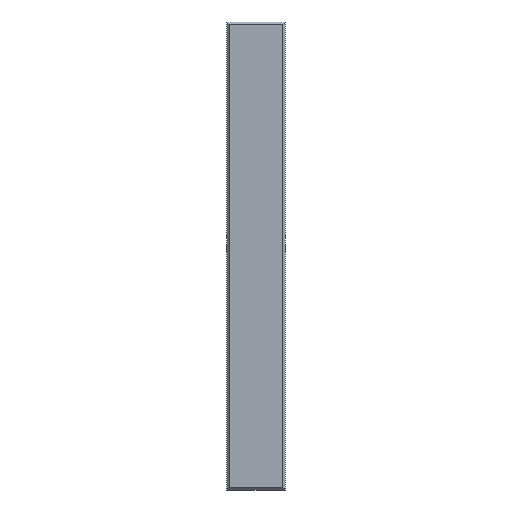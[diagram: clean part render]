
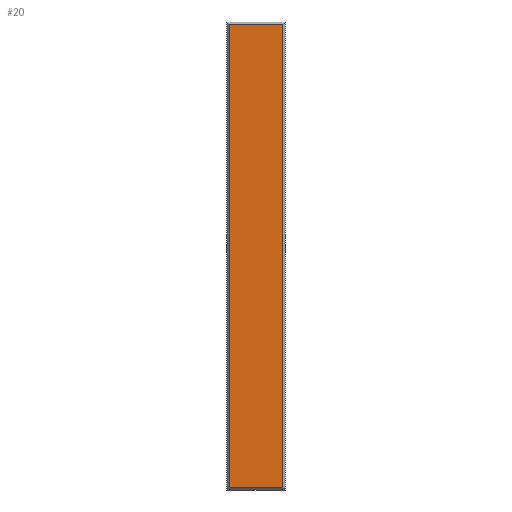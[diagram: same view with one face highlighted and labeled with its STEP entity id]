
A CAD part, front view. The second image highlights one B-rep face of the part: STEP entity #20.
In plain terms, the highlighted planar face has unit normal (0, -1, 0).
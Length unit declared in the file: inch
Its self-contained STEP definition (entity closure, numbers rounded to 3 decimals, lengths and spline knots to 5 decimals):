
#20=ADVANCED_FACE('',(#30),#142,.T.);
#30=FACE_OUTER_BOUND('',#40,.T.);
#40=EDGE_LOOP('',(#68,#69,#70,#71));
#68=ORIENTED_EDGE('',*,*,#84,.F.);
#69=ORIENTED_EDGE('',*,*,#95,.F.);
#70=ORIENTED_EDGE('',*,*,#91,.F.);
#71=ORIENTED_EDGE('',*,*,#88,.F.);
#84=EDGE_CURVE('',#124,#125,#104,.T.);
#88=EDGE_CURVE('',#125,#128,#108,.T.);
#91=EDGE_CURVE('',#128,#130,#111,.T.);
#95=EDGE_CURVE('',#130,#124,#115,.T.);
#104=B_SPLINE_CURVE_WITH_KNOTS('',1,(#285,#286),.UNSPECIFIED.,.F.,.F.,(2,
2),(0.,47.5),.UNSPECIFIED.);
#108=B_SPLINE_CURVE_WITH_KNOTS('',1,(#293,#294),.UNSPECIFIED.,.F.,.F.,(2,
2),(0.,5.5),.UNSPECIFIED.);
#111=B_SPLINE_CURVE_WITH_KNOTS('',1,(#299,#300),.UNSPECIFIED.,.F.,.F.,(2,
2),(0.,47.5),.UNSPECIFIED.);
#115=B_SPLINE_CURVE_WITH_KNOTS('',1,(#307,#308),.UNSPECIFIED.,.F.,.F.,(2,
2),(0.,5.5),.UNSPECIFIED.);
#124=VERTEX_POINT('',#273);
#125=VERTEX_POINT('',#274);
#128=VERTEX_POINT('',#277);
#130=VERTEX_POINT('',#279);
#142=PLANE('',#243);
#243=AXIS2_PLACEMENT_3D('',#269,#256,$);
#256=DIRECTION('',(0.,-1.,0.));
#269=CARTESIAN_POINT('',(-3.30472,-0.5,28.50472));
#273=CARTESIAN_POINT('',(-2.75,-0.5,-23.75));
#274=CARTESIAN_POINT('',(-2.75,-0.5,23.75));
#277=CARTESIAN_POINT('',(2.75,-0.5,23.75));
#279=CARTESIAN_POINT('',(2.75,-0.5,-23.75));
#285=CARTESIAN_POINT('',(-2.75,-0.5,-23.75));
#286=CARTESIAN_POINT('',(-2.75,-0.5,23.75));
#293=CARTESIAN_POINT('',(-2.75,-0.5,23.75));
#294=CARTESIAN_POINT('',(2.75,-0.5,23.75));
#299=CARTESIAN_POINT('',(2.75,-0.5,23.75));
#300=CARTESIAN_POINT('',(2.75,-0.5,-23.75));
#307=CARTESIAN_POINT('',(2.75,-0.5,-23.75));
#308=CARTESIAN_POINT('',(-2.75,-0.5,-23.75));
